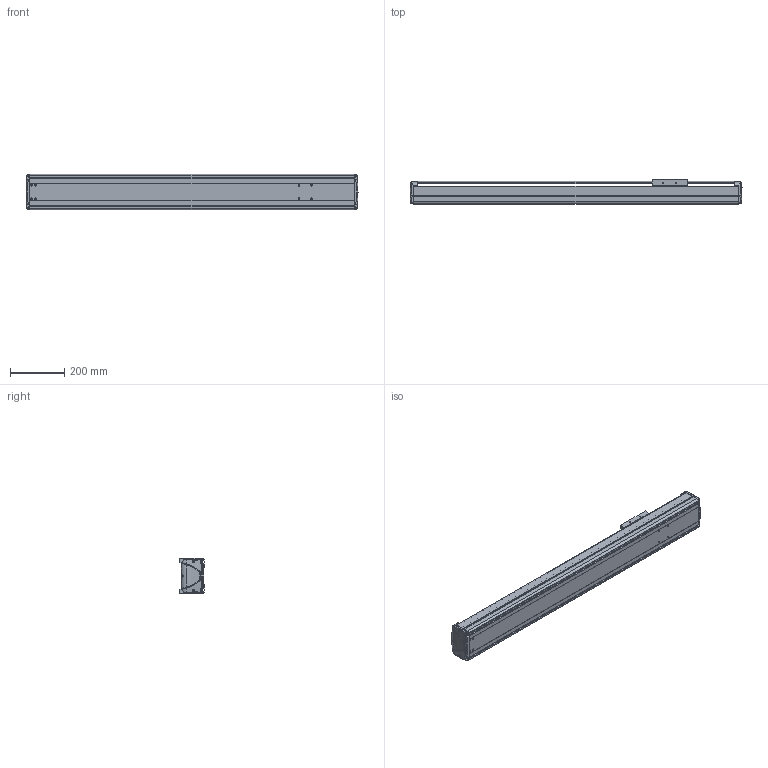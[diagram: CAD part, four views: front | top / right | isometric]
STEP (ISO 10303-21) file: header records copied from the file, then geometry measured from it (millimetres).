
FILE_DESCRIPTION((''),'2;1');
FILE_NAME('BE30E-ST-M_B-85_IGS_PRT','2017-06-17T',(' '),(''),'PRO/ENGINEER BY PARAMETRIC TECHNOLOGY CORPORATION, 2015030','PRO/ENGINEER BY PARAMETRIC TECHNOLOGY CORPORATION, 2015030','');
FILE_SCHEMA(('CONFIG_CONTROL_DESIGN'));
Length unit declared in the file: millimetre
Products named in the file (1): BE30E-ST-M_B-85_IGS_PRT
Bounding box: 1225 x 89.8 x 130 mm (x, y, z)
Volume: 3719429.2 mm3; surface area: 1463973.3 mm2
Topology: 3 solids, 86 shells, 1356 faces, 3640 edges, 2378 vertices
Faces by surface type: cylinder 615, plane 588, bspline 55, torus 42, cone 32, sphere 24
Entity records: 45452 total; most frequent: CARTESIAN_POINT 11367, DIRECTION 7032, ORIENTED_EDGE 6910, EDGE_CURVE 3620, AXIS2_PLACEMENT_3D 2546, VERTEX_POINT 2378, VECTOR 1940, LINE 1940
